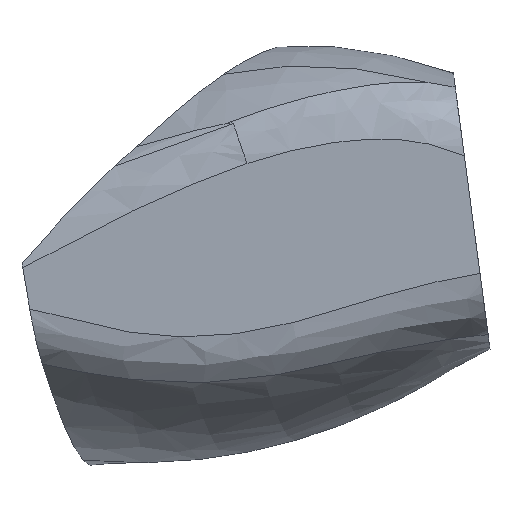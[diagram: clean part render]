
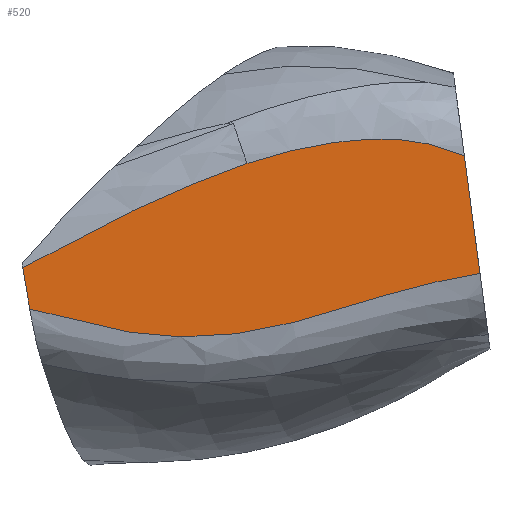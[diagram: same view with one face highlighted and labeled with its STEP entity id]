
A CAD part, front view. The second image highlights one B-rep face of the part: STEP entity #520.
In plain terms, the highlighted planar face has unit normal (0, -1, 0).
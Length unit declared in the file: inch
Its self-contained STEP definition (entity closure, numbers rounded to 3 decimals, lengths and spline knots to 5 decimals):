
#60=B_SPLINE_CURVE_WITH_KNOTS('',3,(#1297,#1298,#1299,#1300,#1301),
 .UNSPECIFIED.,.F.,.F.,(4,1,4),(0.07998,1.0423,1.76533),
 .UNSPECIFIED.);
#64=B_SPLINE_CURVE_WITH_KNOTS('',3,(#1450,#1451,#1452,#1453,#1454,#1455,
#1456,#1457,#1458,#1459,#1460,#1461,#1462,#1463,#1464,#1465,#1466,#1467,
#1468,#1469,#1470),.UNSPECIFIED.,.F.,.F.,(4,1,1,2,1,1,1,1,1,1,1,1,1,1,1,
1,1,4),(-0.34466,-0.20679,-0.06893,0.,0.00191,
0.00382,0.00763,0.01526,0.03053,
0.04579,0.06105,0.09158,0.12211,
0.24422,0.48843,0.73265,0.97687,
1.16948),.UNSPECIFIED.);
#66=B_SPLINE_CURVE_WITH_KNOTS('',3,(#1483,#1484,#1485,#1486,#1487,#1488,
#1489,#1490,#1491,#1492,#1493,#1494,#1495,#1496,#1497,#1498,#1499,#1500,
#1501,#1502),.UNSPECIFIED.,.F.,.F.,(4,1,1,1,1,1,1,1,1,1,1,1,1,1,1,2,4),
(-0.17831,-0.0277,0.12291,0.42414,
0.49945,0.57475,1.0266,1.62905,1.93028,
2.08089,2.23151,2.30681,2.38212,2.53273,
2.68335,2.83396,2.95248),.UNSPECIFIED.);
#92=FACE_OUTER_BOUND('',#121,.T.);
#121=EDGE_LOOP('',(#443,#444,#445,#446,#447));
#161=LINE('',#1269,#196);
#162=LINE('',#1503,#197);
#196=VECTOR('',#618,0.3937);
#197=VECTOR('',#625,0.3937);
#241=VERTEX_POINT('',#1259);
#242=VERTEX_POINT('',#1268);
#243=VERTEX_POINT('',#1296);
#246=VERTEX_POINT('',#1449);
#247=VERTEX_POINT('',#1482);
#311=EDGE_CURVE('',#242,#241,#161,.T.);
#313=EDGE_CURVE('',#243,#242,#60,.T.);
#318=EDGE_CURVE('',#246,#243,#64,.T.);
#320=EDGE_CURVE('',#241,#247,#66,.T.);
#321=EDGE_CURVE('',#247,#246,#162,.T.);
#443=ORIENTED_EDGE('',*,*,#313,.T.);
#444=ORIENTED_EDGE('',*,*,#311,.T.);
#445=ORIENTED_EDGE('',*,*,#320,.T.);
#446=ORIENTED_EDGE('',*,*,#321,.T.);
#447=ORIENTED_EDGE('',*,*,#318,.T.);
#498=PLANE('',#547);
#520=ADVANCED_FACE('',(#92),#498,.T.);
#547=AXIS2_PLACEMENT_3D('',#1481,#623,#624);
#618=DIRECTION('',(0.168,0.,-0.986));
#623=DIRECTION('center_axis',(0.,-1.,0.));
#624=DIRECTION('ref_axis',(-0.991,0.,-0.133));
#625=DIRECTION('',(-0.132,0.,0.991));
#1259=CARTESIAN_POINT('',(0.01214,0.,1.49081));
#1268=CARTESIAN_POINT('',(-0.00674,0.,1.60164));
#1269=CARTESIAN_POINT('',(0.00795,0.,1.51542));
#1296=CARTESIAN_POINT('',(0.59426,0.,1.88101));
#1297=CARTESIAN_POINT('Ctrl Pts',(0.59426,0.,
1.88101));
#1298=CARTESIAN_POINT('Ctrl Pts',(0.47505,0.,
1.83931));
#1299=CARTESIAN_POINT('Ctrl Pts',(0.27213,0.,
1.75038));
#1300=CARTESIAN_POINT('Ctrl Pts',(0.07616,0.,
1.64785));
#1301=CARTESIAN_POINT('Ctrl Pts',(-0.00674,0.,
1.60164));
#1449=CARTESIAN_POINT('',(1.17671,0.,1.90174));
#1450=CARTESIAN_POINT('Ctrl Pts',(1.17671,0.,
1.90174));
#1451=CARTESIAN_POINT('Ctrl Pts',(1.15983,0.,
1.90825));
#1452=CARTESIAN_POINT('Ctrl Pts',(1.12608,0.,
1.92122));
#1453=CARTESIAN_POINT('Ctrl Pts',(1.08249,0.,
1.9335));
#1454=CARTESIAN_POINT('Ctrl Pts',(1.05574,0.,
1.93859));
#1455=CARTESIAN_POINT('Ctrl Pts',(1.04656,0.,
1.94009));
#1456=CARTESIAN_POINT('Ctrl Pts',(1.04607,0.,
1.94017));
#1457=CARTESIAN_POINT('Ctrl Pts',(1.04508,0.,
1.94033));
#1458=CARTESIAN_POINT('Ctrl Pts',(1.04335,0.,
1.94061));
#1459=CARTESIAN_POINT('Ctrl Pts',(1.03988,0.,
1.94114));
#1460=CARTESIAN_POINT('Ctrl Pts',(1.03492,0.,
1.94185));
#1461=CARTESIAN_POINT('Ctrl Pts',(1.02897,0.,
1.94263));
#1462=CARTESIAN_POINT('Ctrl Pts',(1.02101,0.,
1.94358));
#1463=CARTESIAN_POINT('Ctrl Pts',(1.01105,0.,
1.94459));
#1464=CARTESIAN_POINT('Ctrl Pts',(0.98708,0.,
1.94647));
#1465=CARTESIAN_POINT('Ctrl Pts',(0.93497,0.,
1.9478));
#1466=CARTESIAN_POINT('Ctrl Pts',(0.85496,0.,
1.94228));
#1467=CARTESIAN_POINT('Ctrl Pts',(0.75992,0.,
1.92695));
#1468=CARTESIAN_POINT('Ctrl Pts',(0.67302,0.,
1.90595));
#1469=CARTESIAN_POINT('Ctrl Pts',(0.61822,0.,
1.88906));
#1470=CARTESIAN_POINT('Ctrl Pts',(0.59426,0.,
1.88101));
#1481=CARTESIAN_POINT('Origin',(0.66759,0.,
1.65171));
#1482=CARTESIAN_POINT('',(1.21862,0.,1.58634));
#1483=CARTESIAN_POINT('Ctrl Pts',(0.01214,0.,
1.49081));
#1484=CARTESIAN_POINT('Ctrl Pts',(0.03121,0.,
1.48559));
#1485=CARTESIAN_POINT('Ctrl Pts',(0.06934,0.,
1.47526));
#1486=CARTESIAN_POINT('Ctrl Pts',(0.14594,0.,
1.45535));
#1487=CARTESIAN_POINT('Ctrl Pts',(0.21405,0.,
1.43987));
#1488=CARTESIAN_POINT('Ctrl Pts',(0.27294,0.,
1.42979));
#1489=CARTESIAN_POINT('Ctrl Pts',(0.3517,0.,
1.41821));
#1490=CARTESIAN_POINT('Ctrl Pts',(0.5005,0.,
1.40987));
#1491=CARTESIAN_POINT('Ctrl Pts',(0.67703,0.,
1.44145));
#1492=CARTESIAN_POINT('Ctrl Pts',(0.81035,0.,
1.48058));
#1493=CARTESIAN_POINT('Ctrl Pts',(0.88585,0.,
1.50376));
#1494=CARTESIAN_POINT('Ctrl Pts',(0.93315,0.,
1.51815));
#1495=CARTESIAN_POINT('Ctrl Pts',(0.97105,0.,
1.52936));
#1496=CARTESIAN_POINT('Ctrl Pts',(1.00906,0.,
1.54023));
#1497=CARTESIAN_POINT('Ctrl Pts',(1.05681,0.,
1.55296));
#1498=CARTESIAN_POINT('Ctrl Pts',(1.11447,0.,
1.56683));
#1499=CARTESIAN_POINT('Ctrl Pts',(1.15319,0.,
1.57484));
#1500=CARTESIAN_POINT('Ctrl Pts',(1.18792,0.,
1.58132));
#1501=CARTESIAN_POINT('Ctrl Pts',(1.20325,0.,
1.58395));
#1502=CARTESIAN_POINT('Ctrl Pts',(1.21862,0.,
1.58634));
#1503=CARTESIAN_POINT('',(1.19843,0.,1.73826));
